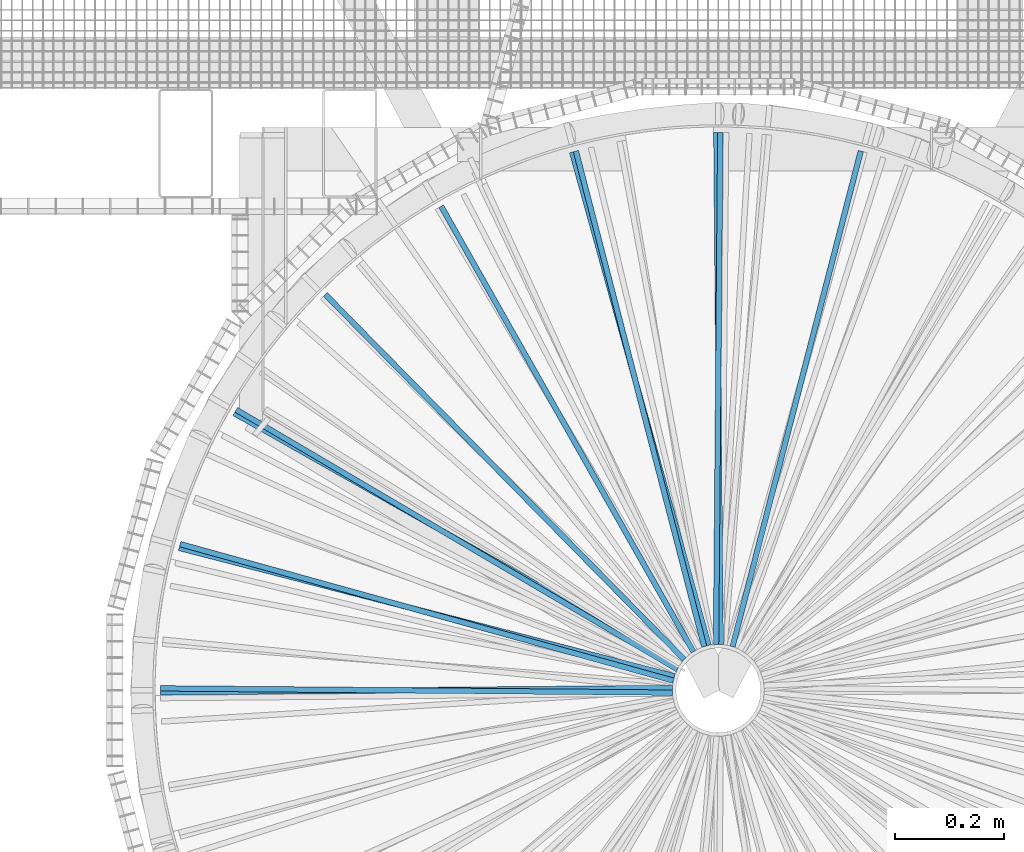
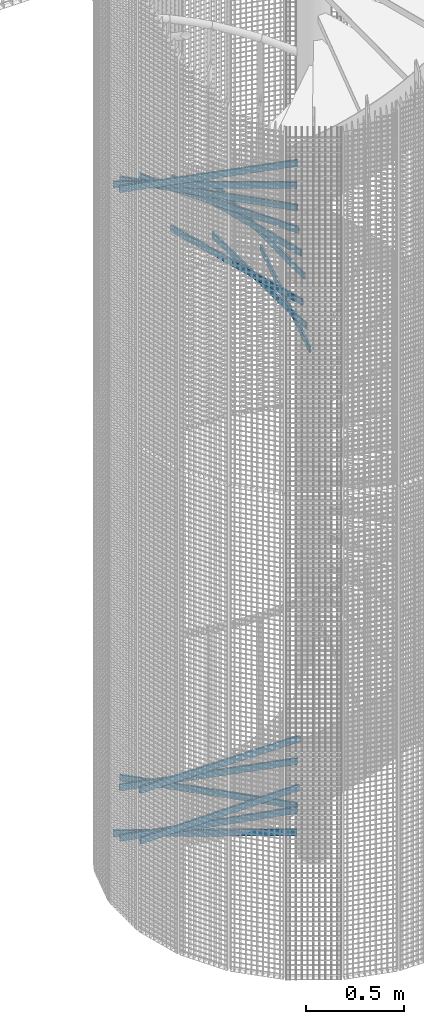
# One storey, part 219 of 1148: 15 beams, 1 element without a shape of its own.
"""IFC2X3 building model written with IfcOpenShell, lengths in millimetres."""

from ifc_helpers import new_model, si_unit, frame, origin_with_axes, origin_2d_with_axis, place, context, subcontext, project, spatial, rectangle, extrude, material, type_object, element, aggregate, save


model = new_model("IFC2X3")

# Units and contexts
model_context = context("Model", 3, precision=1e-05, world=origin_with_axes())
body_context = subcontext(model_context, "Body", "Model", "MODEL_VIEW")
ifc_project = project(units=[si_unit("LENGTHUNIT", "METRE", prefix="MILLI"), si_unit("AREAUNIT", "SQUARE_METRE"), si_unit("VOLUMEUNIT", "CUBIC_METRE"), si_unit("MASSUNIT", "GRAM", prefix="KILO"), si_unit("TIMEUNIT", "SECOND"), si_unit("PLANEANGLEUNIT", "RADIAN"), si_unit("SOLIDANGLEUNIT", "STERADIAN"), si_unit("THERMODYNAMICTEMPERATUREUNIT", "DEGREE_CELSIUS"), si_unit("LUMINOUSINTENSITYUNIT", "LUMEN")], contexts=[model_context])

# Site, building, storey
site_placement = place(None, origin_with_axes())
site = spatial("IfcSite", under=ifc_project, at=site_placement, Name="Undefined", CompositionType="ELEMENT")
building_placement = place(site_placement, origin_with_axes())
building = spatial("IfcBuilding", under=site, at=building_placement, Name="Undefined", CompositionType="ELEMENT")
storey_placement = place(building_placement, origin_with_axes())
storey = spatial("IfcBuildingStorey", under=building, at=storey_placement, Name="Undefined", CompositionType="ELEMENT", Elevation=0.0)

# Assembly, beams
assembly_placement = place(storey_placement, origin_with_axes())
assembly = element("IfcElementAssembly", 1, at=assembly_placement, inside=storey, Name="POTEAU", AssemblyPlace="NOTDEFINED", PredefinedType="NOTDEFINED")
ifc_material = material(Name="STEEL/S235JR")
beam_type = type_object("IfcBeamType", Name="PL10*40", PredefinedType="NOTDEFINED")
beam_1_placement = place(assembly_placement, frame((-74.8463745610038, 38.2598530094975, 4148.04), z_axis=(0.0, 0.0, 1.0), x_axis=(-0.861759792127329, 0.507316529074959, 0.0)))
beam_1 = element("IfcBeam", 2, at=beam_1_placement, type_object=beam_type, material=ifc_material, Name="RAIDISSEUR", context=body_context, shape_type="SweptSolid", body=[
    extrude(rectangle(XDim=10.0, YDim=40.0, at=origin_2d_with_axis()), frame((935.982964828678, -2.59787459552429e-14, -3.63797880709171e-12), z_axis=(-1.0, 0.0, 0.0), x_axis=(0.0, -1.0, 0.0)), (0.0, 0.0, 1.0), 935.98),
])
beam_2_placement = place(assembly_placement, frame((-82.1984248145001, 17.5845129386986, 4302.56), z_axis=(0.0, 0.0, 1.0), x_axis=(-0.963699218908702, 0.266990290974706, 0.0)))
beam_2 = element("IfcBeam", 3, at=beam_2_placement, type_object=beam_type, material=ifc_material, Name="RAIDISSEUR", context=body_context, shape_type="SweptSolid", body=[
    extrude(rectangle(XDim=10.0, YDim=40.0, at=origin_2d_with_axis()), frame((935.982964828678, -2.59787459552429e-14, -3.63797880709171e-12), z_axis=(-1.0, 0.0, 0.0), x_axis=(0.0, -1.0, 0.0)), (0.0, 0.0, 1.0), 935.98),
])
beam_3_placement = place(assembly_placement, frame((-4.28918262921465, 83.9487882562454, 3529.96), z_axis=(0.0, 0.0, 1.0), x_axis=(0.00846910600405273, 0.99996413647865, 0.0)))
beam_3 = element("IfcBeam", 4, at=beam_3_placement, type_object=beam_type, material=ifc_material, Name="RAIDISSEUR", context=body_context, shape_type="SweptSolid", body=[
    extrude(rectangle(XDim=10.0, YDim=40.0, at=origin_2d_with_axis()), frame((935.982964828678, -2.59787459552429e-14, -3.63797880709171e-12), z_axis=(-1.0, 0.0, 0.0), x_axis=(0.0, -1.0, 0.0)), (0.0, 0.0, 1.0), 935.98),
])
beam_4_placement = place(assembly_placement, frame((4.28918262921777, 83.9487882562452, 3220.92), z_axis=(0.0, 0.0, 1.0), x_axis=(-0.00846910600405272, 0.99996413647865, 0.0)))
beam_4 = element("IfcBeam", 5, at=beam_4_placement, type_object=beam_type, material=ifc_material, Name="RAIDISSEUR", context=body_context, shape_type="SweptSolid", body=[
    extrude(rectangle(XDim=10.0, YDim=40.0, at=origin_2d_with_axis()), frame((935.982964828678, -2.59787459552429e-14, -3.63797880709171e-12), z_axis=(-1.0, 0.0, 0.0), x_axis=(0.0, -1.0, 0.0)), (0.0, 0.0, 1.0), 935.98),
])
beam_5_placement = place(assembly_placement, frame((-62.393667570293, 56.3278473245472, 285.04), z_axis=(0.0, 0.0, 1.0), x_axis=(-0.70109285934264, 0.713069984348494, 0.0)))
beam_5 = element("IfcBeam", 6, at=beam_5_placement, type_object=beam_type, material=ifc_material, Name="RAIDISSEUR", context=body_context, shape_type="SweptSolid", body=[
    extrude(rectangle(XDim=10.0, YDim=40.0, at=origin_2d_with_axis()), frame((935.982964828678, -2.59787459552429e-14, -3.63797880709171e-12), z_axis=(-1.0, 0.0, 0.0), x_axis=(0.0, -1.0, 0.0)), (0.0, 0.0, 1.0), 935.98),
])
beam_6_placement = place(assembly_placement, frame((-79.9781805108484, 25.8705774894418, 285.04), z_axis=(0.0, 0.0, 1.0), x_axis=(-0.968083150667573, 0.250629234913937, 0.0)))
beam_6 = element("IfcBeam", 7, at=beam_6_placement, type_object=beam_type, material=ifc_material, Name="RAIDISSEUR", context=body_context, shape_type="SweptSolid", body=[
    extrude(rectangle(XDim=10.0, YDim=40.0, at=origin_2d_with_axis()), frame((935.982964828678, -2.59787459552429e-14, -3.63797880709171e-12), z_axis=(-1.0, 0.0, 0.0), x_axis=(0.0, -1.0, 0.0)), (0.0, 0.0, 1.0), 935.98),
])
beam_7_placement = place(assembly_placement, frame((-82.1984248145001, 17.5845129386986, 594.08), z_axis=(0.0, 0.0, 1.0), x_axis=(-0.963699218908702, 0.266990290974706, 0.0)))
beam_7 = element("IfcBeam", 8, at=beam_7_placement, type_object=beam_type, material=ifc_material, Name="RAIDISSEUR", context=body_context, shape_type="SweptSolid", body=[
    extrude(rectangle(XDim=10.0, YDim=40.0, at=origin_2d_with_axis()), frame((935.982964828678, -2.59787459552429e-14, -3.63797880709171e-12), z_axis=(-1.0, 0.0, 0.0), x_axis=(0.0, -1.0, 0.0)), (0.0, 0.0, 1.0), 935.98),
])
beam_8_placement = place(assembly_placement, frame((-17.5845129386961, 82.1984248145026, 3375.44), z_axis=(0.0, 0.0, 1.0), x_axis=(-0.266990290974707, 0.963699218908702, 0.0)))
beam_8 = element("IfcBeam", 9, at=beam_8_placement, type_object=beam_type, material=ifc_material, Name="RAIDISSEUR", context=body_context, shape_type="SweptSolid", body=[
    extrude(rectangle(XDim=10.0, YDim=40.0, at=origin_2d_with_axis()), frame((935.982964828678, -2.59787459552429e-14, -3.63797880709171e-12), z_axis=(-1.0, 0.0, 0.0), x_axis=(0.0, -1.0, 0.0)), (0.0, 0.0, 1.0), 935.98),
])
beam_9_placement = place(assembly_placement, frame((-25.8705774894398, 79.9781805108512, 3684.48), z_axis=(0.0, 0.0, 1.0), x_axis=(-0.250629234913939, 0.968083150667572, 0.0)))
beam_9 = element("IfcBeam", 10, at=beam_9_placement, type_object=beam_type, material=ifc_material, Name="RAIDISSEUR", context=body_context, shape_type="SweptSolid", body=[
    extrude(rectangle(XDim=10.0, YDim=40.0, at=origin_2d_with_axis()), frame((935.982964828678, -2.59787459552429e-14, -3.63797880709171e-12), z_axis=(-1.0, 0.0, 0.0), x_axis=(0.0, -1.0, 0.0)), (0.0, 0.0, 1.0), 935.98),
])
beam_10_placement = place(assembly_placement, frame((-83.9487882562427, 4.28918262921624, 439.56), z_axis=(0.0, 0.0, 1.0), x_axis=(-0.99996413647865, -0.00846910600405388, 0.0)))
beam_10 = element("IfcBeam", 11, at=beam_10_placement, type_object=beam_type, material=ifc_material, Name="RAIDISSEUR", context=body_context, shape_type="SweptSolid", body=[
    extrude(rectangle(XDim=10.0, YDim=40.0, at=origin_2d_with_axis()), frame((935.982964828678, -2.59787459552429e-14, -3.63797880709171e-12), z_axis=(-1.0, 0.0, 0.0), x_axis=(0.0, -1.0, 0.0)), (0.0, 0.0, 1.0), 935.98),
])
beam_11_placement = place(assembly_placement, frame((-62.393667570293, 56.3278473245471, 3993.52), z_axis=(0.0, 0.0, 1.0), x_axis=(-0.70109285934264, 0.713069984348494, 0.0)))
beam_11 = element("IfcBeam", 12, at=beam_11_placement, type_object=beam_type, material=ifc_material, Name="RAIDISSEUR", context=body_context, shape_type="SweptSolid", body=[
    extrude(rectangle(XDim=10.0, YDim=40.0, at=origin_2d_with_axis()), frame((935.982964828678, -2.59787459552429e-14, -3.63797880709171e-12), z_axis=(-1.0, 0.0, 0.0), x_axis=(0.0, -1.0, 0.0)), (0.0, 0.0, 1.0), 935.98),
])
beam_12_placement = place(assembly_placement, frame((-83.9487882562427, -4.28918262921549, 748.6), z_axis=(0.0, 0.0, 1.0), x_axis=(-0.99996413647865, 0.00846910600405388, 0.0)))
beam_12 = element("IfcBeam", 13, at=beam_12_placement, type_object=beam_type, material=ifc_material, Name="RAIDISSEUR", context=body_context, shape_type="SweptSolid", body=[
    extrude(rectangle(XDim=10.0, YDim=40.0, at=origin_2d_with_axis()), frame((935.982964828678, -2.59787459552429e-14, -3.63797880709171e-12), z_axis=(-1.0, 0.0, 0.0), x_axis=(0.0, -1.0, 0.0)), (0.0, 0.0, 1.0), 935.98),
])
beam_13_placement = place(assembly_placement, frame((25.870577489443, 79.9781805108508, 3066.4), z_axis=(0.0, 0.0, 1.0), x_axis=(0.250629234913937, 0.968083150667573, 0.0)))
beam_13 = element("IfcBeam", 14, at=beam_13_placement, type_object=beam_type, material=ifc_material, Name="RAIDISSEUR", context=body_context, shape_type="SweptSolid", body=[
    extrude(rectangle(XDim=10.0, YDim=40.0, at=origin_2d_with_axis()), frame((935.982964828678, -2.59787459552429e-14, -3.63797880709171e-12), z_axis=(-1.0, 0.0, 0.0), x_axis=(0.0, -1.0, 0.0)), (0.0, 0.0, 1.0), 935.98),
])
beam_14_placement = place(assembly_placement, frame((-45.6889352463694, 70.5571919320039, 3839.0), z_axis=(0.0, 0.0, 1.0), x_axis=(-0.492647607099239, 0.870228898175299, 0.0)))
beam_14 = element("IfcBeam", 15, at=beam_14_placement, type_object=beam_type, material=ifc_material, Name="RAIDISSEUR", context=body_context, shape_type="SweptSolid", body=[
    extrude(rectangle(XDim=10.0, YDim=40.0, at=origin_2d_with_axis()), frame((935.982964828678, -2.59787459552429e-14, -3.63797880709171e-12), z_axis=(-1.0, 0.0, 0.0), x_axis=(0.0, -1.0, 0.0)), (0.0, 0.0, 1.0), 935.98),
])
beam_15_placement = place(assembly_placement, frame((-70.557191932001, 45.6889352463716, 130.52), z_axis=(0.0, 0.0, 1.0), x_axis=(-0.870228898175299, 0.492647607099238, 0.0)))
beam_15 = element("IfcBeam", 16, at=beam_15_placement, type_object=beam_type, material=ifc_material, Name="RAIDISSEUR", context=body_context, shape_type="SweptSolid", body=[
    extrude(rectangle(XDim=10.0, YDim=40.0, at=origin_2d_with_axis()), frame((935.982964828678, -2.59787459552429e-14, -3.63797880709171e-12), z_axis=(-1.0, 0.0, 0.0), x_axis=(0.0, -1.0, 0.0)), (0.0, 0.0, 1.0), 935.98),
])
aggregate(assembly, [beam_1, beam_2, beam_3, beam_4, beam_5, beam_6, beam_7, beam_8, beam_9, beam_10, beam_11, beam_12, beam_13, beam_14, beam_15])

save(model, "model.ifc")
